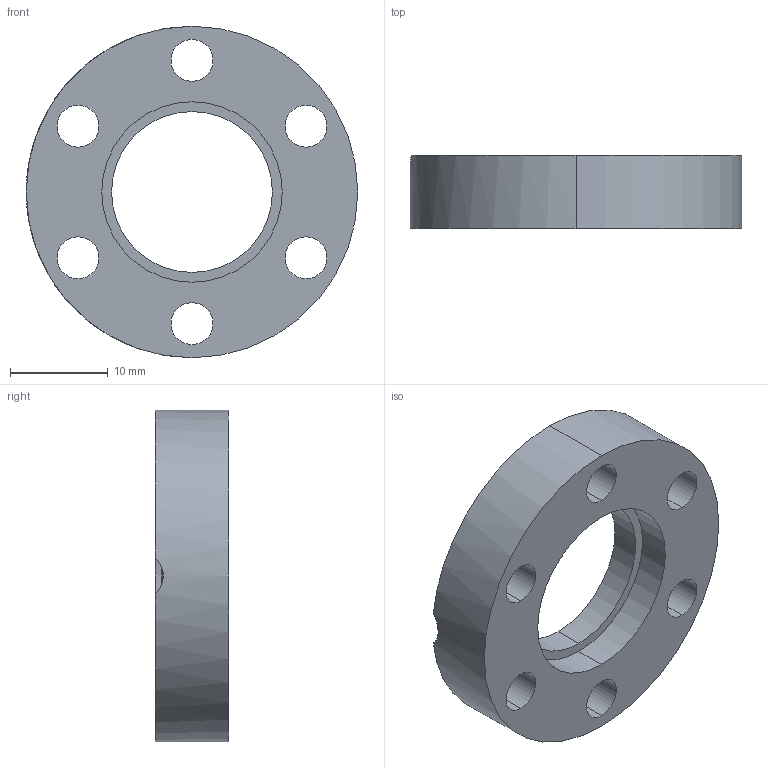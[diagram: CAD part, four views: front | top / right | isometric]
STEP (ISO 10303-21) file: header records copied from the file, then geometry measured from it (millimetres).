
FILE_DESCRIPTION (( 'STEP AP214' ), '1' );
FILE_NAME ('W6CFF16.STEP', '2021-05-14T10:11:51', ( '' ), ( '' ), 'SwSTEP 2.0', 'SolidWorks 2020', '' );
FILE_SCHEMA (( 'AUTOMOTIVE_DESIGN' ));
Length unit declared in the file: millimetre
Products named in the file (1): W6CFF16
Bounding box: 34 x 7.5 x 34 mm (x, y, z)
Volume: 4218.6 mm3; surface area: 3047.3 mm2
Topology: 1 solids, 1 shells, 36 faces, 89 edges, 56 vertices
Faces by surface type: cylinder 22, torus 6, cone 4, plane 4
Entity records: 1182 total; most frequent: CARTESIAN_POINT 218, DIRECTION 218, ORIENTED_EDGE 178, AXIS2_PLACEMENT_3D 96, EDGE_CURVE 89, CIRCLE 59, VERTEX_POINT 56, EDGE_LOOP 51
